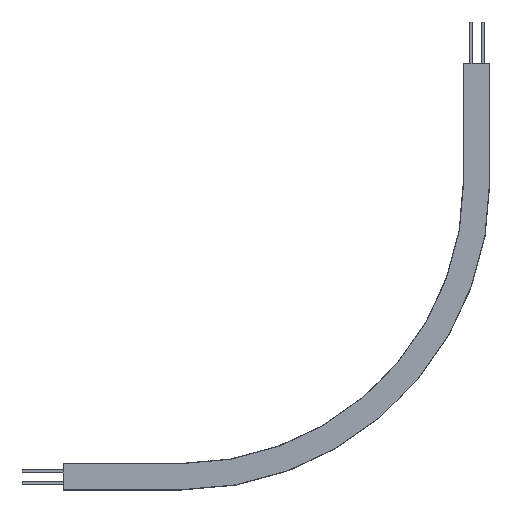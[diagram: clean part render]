
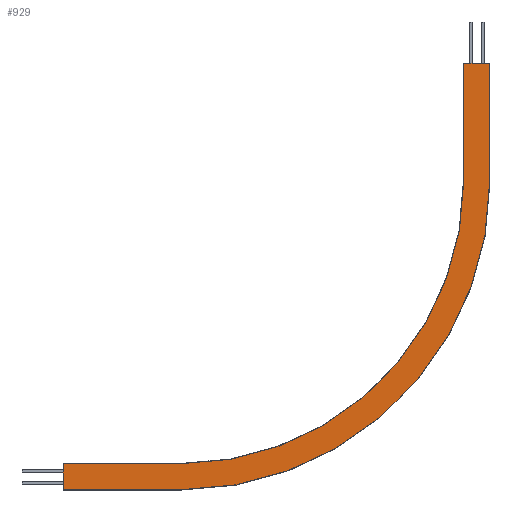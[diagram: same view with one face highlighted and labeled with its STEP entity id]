
A CAD part, top view. The second image highlights one B-rep face of the part: STEP entity #929.
In plain terms, the highlighted planar face has unit normal (0, 0, -1).
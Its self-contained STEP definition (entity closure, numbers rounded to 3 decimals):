
#61=CIRCLE('',#1011,478.);
#62=CIRCLE('',#1013,522.);
#119=FACE_OUTER_BOUND('',#171,.T.);
#171=EDGE_LOOP('',(#794,#795,#796,#797,#798,#799,#800,#801));
#253=LINE('',#1463,#363);
#255=LINE('',#1469,#365);
#262=LINE('',#1490,#372);
#267=LINE('',#1499,#377);
#268=LINE('',#1501,#378);
#269=LINE('',#1502,#379);
#363=VECTOR('',#1198,10.);
#365=VECTOR('',#1202,10.);
#372=VECTOR('',#1223,10.);
#377=VECTOR('',#1232,10.);
#378=VECTOR('',#1235,10.);
#379=VECTOR('',#1236,10.);
#453=VERTEX_POINT('',#1457);
#455=VERTEX_POINT('',#1461);
#456=VERTEX_POINT('',#1465);
#458=VERTEX_POINT('',#1468);
#461=VERTEX_POINT('',#1475);
#462=VERTEX_POINT('',#1480);
#464=VERTEX_POINT('',#1486);
#467=VERTEX_POINT('',#1497);
#565=EDGE_CURVE('',#453,#455,#253,.T.);
#567=EDGE_CURVE('',#456,#458,#255,.T.);
#572=EDGE_CURVE('',#461,#453,#61,.T.);
#574=EDGE_CURVE('',#462,#456,#62,.T.);
#578=EDGE_CURVE('',#464,#461,#262,.T.);
#583=EDGE_CURVE('',#467,#462,#267,.T.);
#584=EDGE_CURVE('',#467,#464,#268,.T.);
#585=EDGE_CURVE('',#455,#458,#269,.T.);
#794=ORIENTED_EDGE('',*,*,#584,.T.);
#795=ORIENTED_EDGE('',*,*,#578,.T.);
#796=ORIENTED_EDGE('',*,*,#572,.T.);
#797=ORIENTED_EDGE('',*,*,#565,.T.);
#798=ORIENTED_EDGE('',*,*,#585,.T.);
#799=ORIENTED_EDGE('',*,*,#567,.F.);
#800=ORIENTED_EDGE('',*,*,#574,.F.);
#801=ORIENTED_EDGE('',*,*,#583,.F.);
#879=PLANE('',#1018);
#929=ADVANCED_FACE('',(#119),#879,.F.);
#1011=AXIS2_PLACEMENT_3D('',#1478,#1210,#1211);
#1013=AXIS2_PLACEMENT_3D('',#1483,#1215,#1216);
#1018=AXIS2_PLACEMENT_3D('',#1500,#1233,#1234);
#1198=DIRECTION('',(0.,1.,0.));
#1202=DIRECTION('',(0.,1.,0.));
#1210=DIRECTION('center_axis',(0.,0.,1.));
#1211=DIRECTION('ref_axis',(0.,-1.,0.));
#1215=DIRECTION('center_axis',(0.,0.,1.));
#1216=DIRECTION('ref_axis',(0.,-1.,0.));
#1223=DIRECTION('',(1.,0.,0.));
#1232=DIRECTION('',(1.,0.,0.));
#1233=DIRECTION('center_axis',(0.,0.,1.));
#1234=DIRECTION('ref_axis',(0.,-1.,0.));
#1235=DIRECTION('',(0.,1.,0.));
#1236=DIRECTION('',(1.,0.,0.));
#1457=CARTESIAN_POINT('',(678.,500.,36.1));
#1461=CARTESIAN_POINT('',(678.,700.,36.1));
#1463=CARTESIAN_POINT('',(678.,500.,36.1));
#1465=CARTESIAN_POINT('',(722.,500.,36.1));
#1468=CARTESIAN_POINT('',(722.,700.,36.1));
#1469=CARTESIAN_POINT('',(722.,500.,36.1));
#1475=CARTESIAN_POINT('',(200.,22.,36.1));
#1478=CARTESIAN_POINT('Origin',(200.,500.,36.1));
#1480=CARTESIAN_POINT('',(200.,-22.,36.1));
#1483=CARTESIAN_POINT('Origin',(200.,500.,36.1));
#1486=CARTESIAN_POINT('',(0.,22.,36.1));
#1490=CARTESIAN_POINT('',(0.,22.,36.1));
#1497=CARTESIAN_POINT('',(0.,-22.,36.1));
#1499=CARTESIAN_POINT('',(0.,-22.,36.1));
#1500=CARTESIAN_POINT('Origin',(0.,22.,36.1));
#1501=CARTESIAN_POINT('',(0.,-22.,36.1));
#1502=CARTESIAN_POINT('',(722.,700.,36.1));
